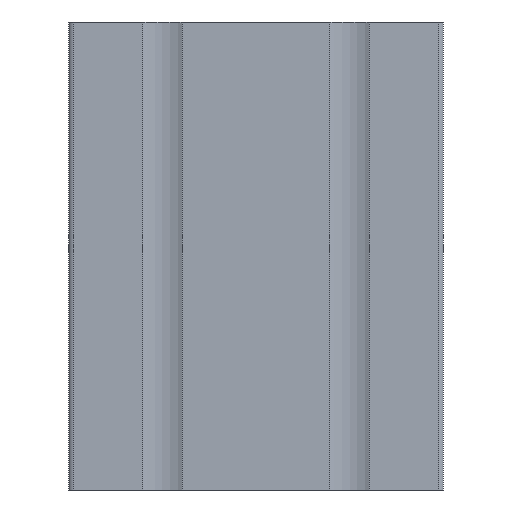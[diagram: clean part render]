
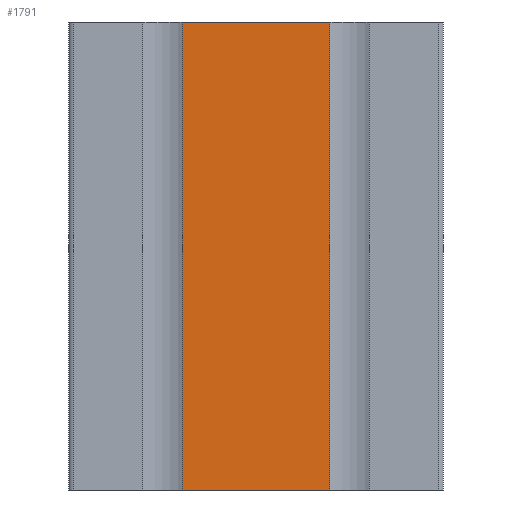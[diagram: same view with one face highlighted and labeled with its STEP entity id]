
A CAD part, left-side view. The second image highlights one B-rep face of the part: STEP entity #1791.
In plain terms, the highlighted planar face has unit normal (-1, 0, 0).
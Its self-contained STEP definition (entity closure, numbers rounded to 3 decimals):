
#182 = DIRECTION ( 'NONE',  ( 0., -1., 0. ) ) ;
#558 = DIRECTION ( 'NONE',  ( 1., 0., 0. ) ) ;
#777 = EDGE_CURVE ( 'NONE', #6287, #809, #865, .T. ) ;
#809 = VERTEX_POINT ( 'NONE', #904 ) ;
#865 = LINE ( 'NONE', #2129, #4595 ) ;
#904 = CARTESIAN_POINT ( 'NONE',  ( -40., 15.8, -50. ) ) ;
#1048 = CARTESIAN_POINT ( 'NONE',  ( -40., -15.8, 50. ) ) ;
#1404 = CARTESIAN_POINT ( 'NONE',  ( -40., -15.8, -50. ) ) ;
#1767 = EDGE_LOOP ( 'NONE', ( #4331, #4862, #2094, #5030 ) ) ;
#1791 = ADVANCED_FACE ( 'NONE', ( #3549 ), #5958, .F. ) ;
#1954 = VECTOR ( 'NONE', #182, 1000. ) ;
#2094 = ORIENTED_EDGE ( 'NONE', *, *, #2267, .F. ) ;
#2129 = CARTESIAN_POINT ( 'NONE',  ( -40., 15.8, 50. ) ) ;
#2267 = EDGE_CURVE ( 'NONE', #6287, #6756, #4251, .T. ) ;
#2355 = LINE ( 'NONE', #6489, #6109 ) ;
#2957 = DIRECTION ( 'NONE',  ( 0., 0., -1. ) ) ;
#3171 = LINE ( 'NONE', #6103, #1954 ) ;
#3549 = FACE_OUTER_BOUND ( 'NONE', #1767, .T. ) ;
#4195 = DIRECTION ( 'NONE',  ( 0., 0., -1. ) ) ;
#4251 = LINE ( 'NONE', #4852, #6557 ) ;
#4331 = ORIENTED_EDGE ( 'NONE', *, *, #5399, .T. ) ;
#4595 = VECTOR ( 'NONE', #5635, 1000. ) ;
#4852 = CARTESIAN_POINT ( 'NONE',  ( -40., 0., 50. ) ) ;
#4862 = ORIENTED_EDGE ( 'NONE', *, *, #5651, .F. ) ;
#5030 = ORIENTED_EDGE ( 'NONE', *, *, #777, .T. ) ;
#5155 = AXIS2_PLACEMENT_3D ( 'NONE', #7222, #558, #2957 ) ;
#5399 = EDGE_CURVE ( 'NONE', #809, #7063, #3171, .T. ) ;
#5590 = DIRECTION ( 'NONE',  ( 0., -1., 0. ) ) ;
#5635 = DIRECTION ( 'NONE',  ( 0., 0., -1. ) ) ;
#5651 = EDGE_CURVE ( 'NONE', #6756, #7063, #2355, .T. ) ;
#5958 = PLANE ( 'NONE',  #5155 ) ;
#6103 = CARTESIAN_POINT ( 'NONE',  ( -40., 0., -50. ) ) ;
#6109 = VECTOR ( 'NONE', #4195, 1000. ) ;
#6287 = VERTEX_POINT ( 'NONE', #6382 ) ;
#6382 = CARTESIAN_POINT ( 'NONE',  ( -40., 15.8, 50. ) ) ;
#6489 = CARTESIAN_POINT ( 'NONE',  ( -40., -15.8, 50. ) ) ;
#6557 = VECTOR ( 'NONE', #5590, 1000. ) ;
#6756 = VERTEX_POINT ( 'NONE', #1048 ) ;
#7063 = VERTEX_POINT ( 'NONE', #1404 ) ;
#7222 = CARTESIAN_POINT ( 'NONE',  ( -40., 0., 50. ) ) ;
